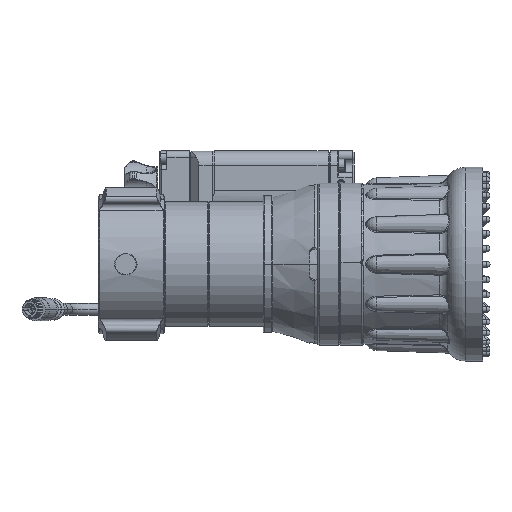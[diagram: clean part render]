
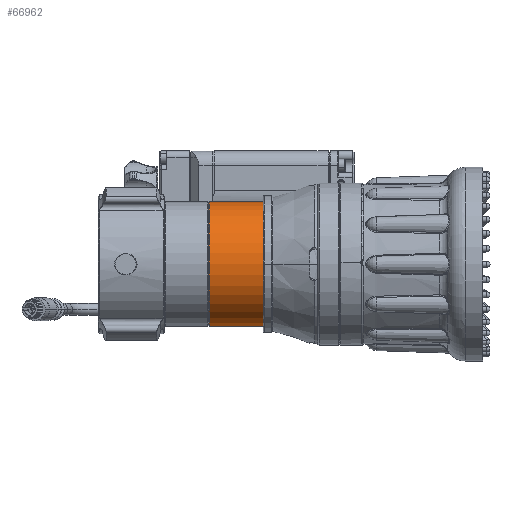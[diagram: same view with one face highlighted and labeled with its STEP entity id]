
A CAD part, front view. The second image highlights one B-rep face of the part: STEP entity #66962.
In plain terms, the highlighted cylindrical face has radius 40.589 mm (diameter 81.178 mm), a partial arc.
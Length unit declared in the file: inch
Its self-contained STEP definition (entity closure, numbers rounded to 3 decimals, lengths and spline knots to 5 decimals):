
#3721 = DIRECTION ( 'NONE',  ( -1., 0., 0. ) ) ;
#3976 = AXIS2_PLACEMENT_3D ( 'NONE', #47367, #29328, #23027 ) ;
#6032 = VERTEX_POINT ( 'NONE', #33318 ) ;
#7723 = VERTEX_POINT ( 'NONE', #56765 ) ;
#8904 = CARTESIAN_POINT ( 'NONE',  ( -6.39149, 0., -1.598 ) ) ;
#10380 = LINE ( 'NONE', #8904, #24408 ) ;
#11865 = EDGE_CURVE ( 'NONE', #7723, #24529, #45715, .T. ) ;
#13723 = CYLINDRICAL_SURFACE ( 'NONE', #3976, 1.598 ) ;
#14596 = CARTESIAN_POINT ( 'NONE',  ( -4.35268, 0., 1.598 ) ) ;
#17426 = EDGE_LOOP ( 'NONE', ( #76065, #60864, #20523, #41925 ) ) ;
#18724 = VECTOR ( 'NONE', #49207, 39.37008 ) ;
#19037 = AXIS2_PLACEMENT_3D ( 'NONE', #66013, #30422, #36676 ) ;
#20004 = VERTEX_POINT ( 'NONE', #14596 ) ;
#20523 = ORIENTED_EDGE ( 'NONE', *, *, #50665, .F. ) ;
#23027 = DIRECTION ( 'NONE',  ( 0., 0., -1. ) ) ;
#23363 = LINE ( 'NONE', #25389, #18724 ) ;
#24408 = VECTOR ( 'NONE', #69120, 39.37008 ) ;
#24529 = VERTEX_POINT ( 'NONE', #77194 ) ;
#25389 = CARTESIAN_POINT ( 'NONE',  ( -6.39149, 0., 1.598 ) ) ;
#29328 = DIRECTION ( 'NONE',  ( -1., 0., 0. ) ) ;
#30422 = DIRECTION ( 'NONE',  ( -1., 0., 0. ) ) ;
#31381 = AXIS2_PLACEMENT_3D ( 'NONE', #45361, #3721, #57679 ) ;
#33318 = CARTESIAN_POINT ( 'NONE',  ( -4.35268, 0., -1.598 ) ) ;
#33415 = EDGE_CURVE ( 'NONE', #24529, #20004, #23363, .T. ) ;
#36676 = DIRECTION ( 'NONE',  ( 0., 0., -1. ) ) ;
#41925 = ORIENTED_EDGE ( 'NONE', *, *, #61469, .F. ) ;
#43689 = FACE_OUTER_BOUND ( 'NONE', #17426, .T. ) ;
#45361 = CARTESIAN_POINT ( 'NONE',  ( -4.35268, 0., 0. ) ) ;
#45715 = CIRCLE ( 'NONE', #19037, 1.598 ) ;
#47367 = CARTESIAN_POINT ( 'NONE',  ( -6.39149, 0., 0. ) ) ;
#49207 = DIRECTION ( 'NONE',  ( -1., 0., 0. ) ) ;
#50665 = EDGE_CURVE ( 'NONE', #6032, #20004, #61523, .T. ) ;
#56765 = CARTESIAN_POINT ( 'NONE',  ( -2.725, 0., -1.598 ) ) ;
#57679 = DIRECTION ( 'NONE',  ( 0., 0., -1. ) ) ;
#60864 = ORIENTED_EDGE ( 'NONE', *, *, #33415, .T. ) ;
#61469 = EDGE_CURVE ( 'NONE', #7723, #6032, #10380, .T. ) ;
#61523 = CIRCLE ( 'NONE', #31381, 1.598 ) ;
#66013 = CARTESIAN_POINT ( 'NONE',  ( -2.725, 0., 0. ) ) ;
#66962 = ADVANCED_FACE ( 'NONE', ( #43689 ), #13723, .T. ) ;
#69120 = DIRECTION ( 'NONE',  ( -1., 0., 0. ) ) ;
#76065 = ORIENTED_EDGE ( 'NONE', *, *, #11865, .T. ) ;
#77194 = CARTESIAN_POINT ( 'NONE',  ( -2.725, 0., 1.598 ) ) ;
